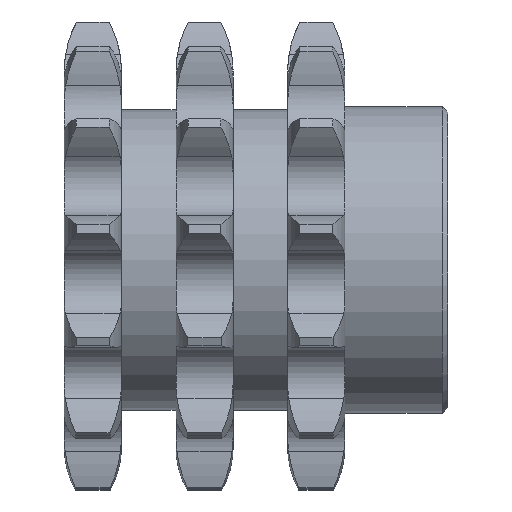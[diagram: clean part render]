
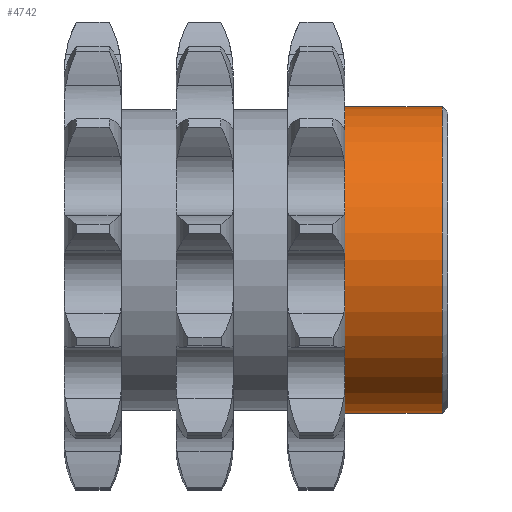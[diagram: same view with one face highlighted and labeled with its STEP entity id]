
A CAD part, top view. The second image highlights one B-rep face of the part: STEP entity #4742.
In plain terms, the highlighted cylindrical face has radius 14000 mm (diameter 28000 mm), a full revolution.
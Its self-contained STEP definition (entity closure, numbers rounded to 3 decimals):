
#25=FACE_BOUND('',#846,.T.);
#276=CIRCLE('',#5126,14000.);
#319=CIRCLE('',#5207,14000.);
#578=FACE_OUTER_BOUND('',#845,.T.);
#845=EDGE_LOOP('',(#4273));
#846=EDGE_LOOP('',(#4274));
#2061=VERTEX_POINT('',#10797);
#2065=VERTEX_POINT('',#10882);
#2770=EDGE_CURVE('',#2061,#2061,#276,.T.);
#2813=EDGE_CURVE('',#2065,#2065,#319,.T.);
#4273=ORIENTED_EDGE('',*,*,#2770,.T.);
#4274=ORIENTED_EDGE('',*,*,#2813,.F.);
#4488=CYLINDRICAL_SURFACE('',#5206,14000.);
#4742=ADVANCED_FACE('',(#578,#25),#4488,.T.);
#5126=AXIS2_PLACEMENT_3D('',#10798,#6139,#6140);
#5206=AXIS2_PLACEMENT_3D('',#10881,#6299,#6300);
#5207=AXIS2_PLACEMENT_3D('',#10883,#6301,#6302);
#6139=DIRECTION('center_axis',(1.,0.,0.));
#6140=DIRECTION('ref_axis',(0.,0.,-1.));
#6299=DIRECTION('center_axis',(1.,0.,0.));
#6300=DIRECTION('ref_axis',(0.,1.,0.));
#6301=DIRECTION('center_axis',(1.,0.,0.));
#6302=DIRECTION('ref_axis',(0.,0.,-1.));
#10797=CARTESIAN_POINT('',(32020.87,13815.249,0.));
#10798=CARTESIAN_POINT('Origin',(32020.87,-184.751,0.));
#10881=CARTESIAN_POINT('Origin',(36470.87,-184.751,0.));
#10882=CARTESIAN_POINT('',(40920.87,13815.249,0.));
#10883=CARTESIAN_POINT('Origin',(40920.87,-184.751,0.));
